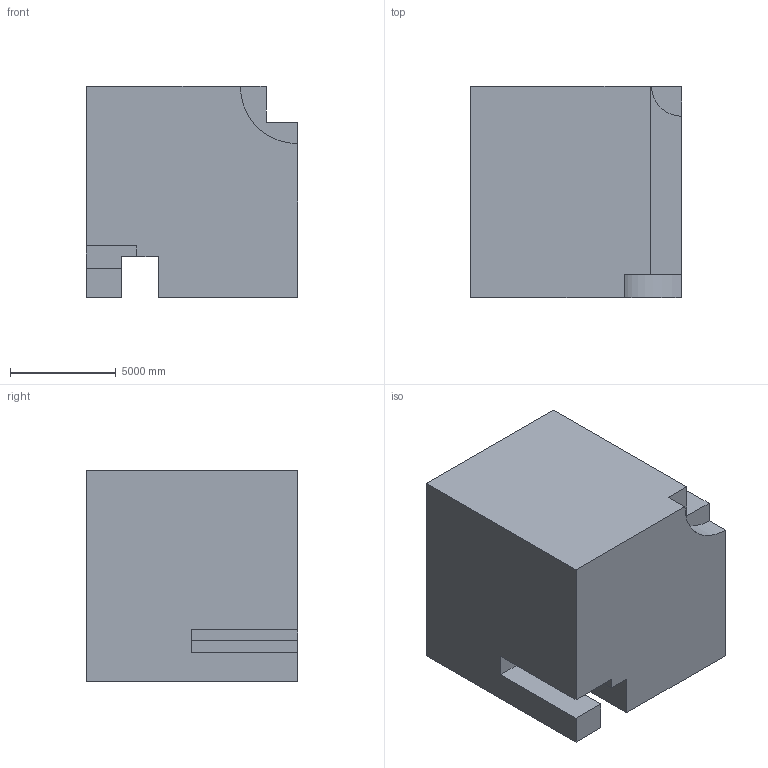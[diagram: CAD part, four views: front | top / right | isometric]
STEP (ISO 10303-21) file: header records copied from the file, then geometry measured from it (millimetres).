
FILE_DESCRIPTION (( 'STEP AP203' ), '1' );
FILE_NAME ('506.STEP', '2022-07-29T11:33:41', ( 'user' ), ( '' ), 'SwSTEP 2.0', 'SolidWorks 2021', '' );
FILE_SCHEMA (( 'CONFIG_CONTROL_DESIGN' ));
Length unit declared in the file: centimetre
Products named in the file (1): 506
Bounding box: 10000 x 10000 x 10000 mm (x, y, z)
Volume: 882432127800.1 mm3; surface area: 692260196.6 mm2
Topology: 1 solids, 1 shells, 28 faces, 75 edges, 50 vertices
Faces by surface type: plane 26, cylinder 2
Entity records: 940 total; most frequent: CARTESIAN_POINT 154, ORIENTED_EDGE 150, DIRECTION 137, EDGE_CURVE 75, LINE 71, VECTOR 71, VERTEX_POINT 50, AXIS2_PLACEMENT_3D 33
